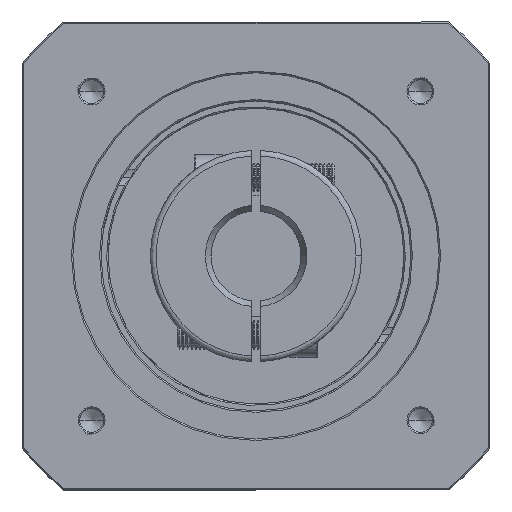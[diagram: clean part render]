
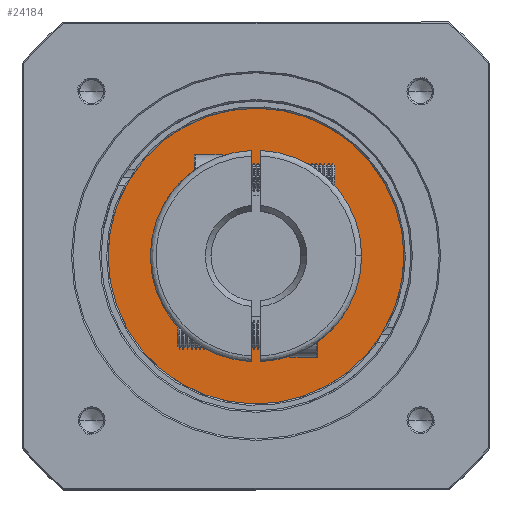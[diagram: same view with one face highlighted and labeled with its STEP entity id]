
A CAD part, top view. The second image highlights one B-rep face of the part: STEP entity #24184.
In plain terms, the highlighted planar face has unit normal (0, 0, 1).
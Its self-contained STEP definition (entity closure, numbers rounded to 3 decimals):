
#131 = EDGE_CURVE ( 'NONE', #131262, #78636, #95988, .T. ) ;
#3013 = EDGE_CURVE ( 'NONE', #81513, #64094, #108025, .T. ) ;
#5871 = CARTESIAN_POINT ( 'NONE',  ( -108.404, 110.826, -1.354 ) ) ;
#9746 = DIRECTION ( 'NONE',  ( 0., 0., -1. ) ) ;
#13463 = DIRECTION ( 'NONE',  ( 0., 0., -1. ) ) ;
#15521 = ORIENTED_EDGE ( 'NONE', *, *, #38473, .T. ) ;
#19723 = ORIENTED_EDGE ( 'NONE', *, *, #76344, .F. ) ;
#19868 = CIRCLE ( 'NONE', #24482, 30.5 ) ;
#22423 = CARTESIAN_POINT ( 'NONE',  ( -55.904, 80.326, -1.354 ) ) ;
#22615 = CARTESIAN_POINT ( 'NONE',  ( -108.404, 80.326, -1.354 ) ) ;
#23521 = DIRECTION ( 'NONE',  ( 0., 1., 0. ) ) ;
#24184 = ADVANCED_FACE ( 'NONE', ( #71105, #25726 ), #119891, .F. ) ;
#24482 = AXIS2_PLACEMENT_3D ( 'NONE', #65627, #9746, #118992 ) ;
#25726 = FACE_OUTER_BOUND ( 'NONE', #62760, .T. ) ;
#35345 = ORIENTED_EDGE ( 'NONE', *, *, #131, .F. ) ;
#37679 = CARTESIAN_POINT ( 'NONE',  ( -108.404, 80.326, -1.354 ) ) ;
#38473 = EDGE_CURVE ( 'NONE', #64094, #81513, #19868, .T. ) ;
#45856 = DIRECTION ( 'NONE',  ( -1., 0., 0. ) ) ;
#48453 = DIRECTION ( 'NONE',  ( 0., 0., -1. ) ) ;
#62760 = EDGE_LOOP ( 'NONE', ( #19723, #35345 ) ) ;
#64094 = VERTEX_POINT ( 'NONE', #75352 ) ;
#64261 = AXIS2_PLACEMENT_3D ( 'NONE', #114646, #92659, #112814 ) ;
#65458 = AXIS2_PLACEMENT_3D ( 'NONE', #68365, #13463, #45856 ) ;
#65627 = CARTESIAN_POINT ( 'NONE',  ( -108.404, 80.326, -1.354 ) ) ;
#65795 = DIRECTION ( 'NONE',  ( 0., 0., -1. ) ) ;
#68365 = CARTESIAN_POINT ( 'NONE',  ( -108.404, 80.326, -1.354 ) ) ;
#71105 = FACE_BOUND ( 'NONE', #112659, .T. ) ;
#72666 = ORIENTED_EDGE ( 'NONE', *, *, #3013, .T. ) ;
#75352 = CARTESIAN_POINT ( 'NONE',  ( -108.404, 49.826, -1.354 ) ) ;
#76344 = EDGE_CURVE ( 'NONE', #78636, #131262, #106090, .T. ) ;
#77670 = AXIS2_PLACEMENT_3D ( 'NONE', #22615, #65795, #23521 ) ;
#78636 = VERTEX_POINT ( 'NONE', #97512 ) ;
#81513 = VERTEX_POINT ( 'NONE', #5871 ) ;
#82594 = AXIS2_PLACEMENT_3D ( 'NONE', #37679, #48453, #111754 ) ;
#92659 = DIRECTION ( 'NONE',  ( 0., 0., -1. ) ) ;
#95988 = CIRCLE ( 'NONE', #82594, 52.5 ) ;
#97512 = CARTESIAN_POINT ( 'NONE',  ( -160.904, 80.326, -1.354 ) ) ;
#106090 = CIRCLE ( 'NONE', #64261, 52.5 ) ;
#108025 = CIRCLE ( 'NONE', #77670, 30.5 ) ;
#111754 = DIRECTION ( 'NONE',  ( -1., 0., 0. ) ) ;
#112659 = EDGE_LOOP ( 'NONE', ( #72666, #15521 ) ) ;
#112814 = DIRECTION ( 'NONE',  ( -1., 0., 0. ) ) ;
#114646 = CARTESIAN_POINT ( 'NONE',  ( -108.404, 80.326, -1.354 ) ) ;
#118992 = DIRECTION ( 'NONE',  ( 0., 1., 0. ) ) ;
#119891 = PLANE ( 'NONE',  #65458 ) ;
#131262 = VERTEX_POINT ( 'NONE', #22423 ) ;
